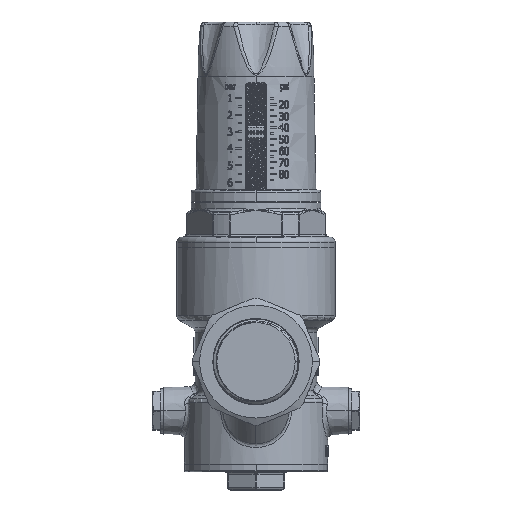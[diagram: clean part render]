
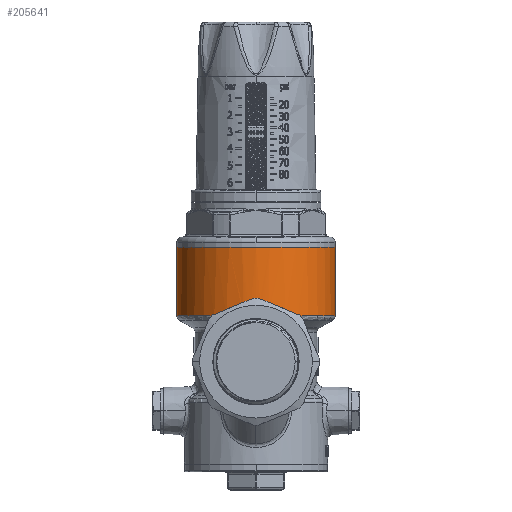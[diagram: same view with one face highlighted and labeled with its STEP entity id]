
A CAD part, left-side view. The second image highlights one B-rep face of the part: STEP entity #205641.
In plain terms, the highlighted cylindrical face has radius 30.5 mm (diameter 61 mm), a partial arc.
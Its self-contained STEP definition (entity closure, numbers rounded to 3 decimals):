
#6147 = CARTESIAN_POINT ( 'NONE',  ( 0., 0., 30.8 ) ) ;
#6174 = CARTESIAN_POINT ( 'NONE',  ( 0., 30.5, 44.1 ) ) ;
#7640 = EDGE_CURVE ( 'NONE', #106637, #15695, #110502, .T. ) ;
#11219 = CIRCLE ( 'NONE', #231513, 30.5 ) ;
#15695 = VERTEX_POINT ( 'NONE', #174830 ) ;
#20724 = CARTESIAN_POINT ( 'NONE',  ( -29.817, 6.419, 17.727 ) ) ;
#23425 = CARTESIAN_POINT ( 'NONE',  ( -30.042, -5.308, 20.527 ) ) ;
#30674 = CYLINDRICAL_SURFACE ( 'NONE', #145989, 30.5 ) ;
#37039 = CARTESIAN_POINT ( 'NONE',  ( -29.78, 6.59, 17.655 ) ) ;
#39792 = DIRECTION ( 'NONE',  ( 0., 0., -1. ) ) ;
#56253 = CARTESIAN_POINT ( 'NONE',  ( -29.889, 6.073, 17.864 ) ) ;
#56784 = CARTESIAN_POINT ( 'NONE',  ( -30.297, -3.699, 22.751 ) ) ;
#58961 = CARTESIAN_POINT ( 'NONE',  ( -29.889, 6.073, 17.864 ) ) ;
#61675 = ORIENTED_EDGE ( 'NONE', *, *, #95538, .F. ) ;
#66974 = LINE ( 'NONE', #244786, #149901 ) ;
#67503 = CARTESIAN_POINT ( 'NONE',  ( -29.889, 6.073, 17.864 ) ) ;
#71119 = VERTEX_POINT ( 'NONE', #234872 ) ;
#95538 = EDGE_CURVE ( 'NONE', #320979, #71119, #149900, .T. ) ;
#105133 = B_SPLINE_CURVE_WITH_KNOTS ( 'NONE', 3,
 ( #361429, #228001, #23425, #56784, #192443, #328062, #159084, #125763, #261345, #58961 ),
 .UNSPECIFIED., .F., .F.,
 ( 4, 1, 1, 1, 1, 1, 1, 4 ),
 ( 0., 0.143, 0.286, 0.429, 0.571, 0.714, 0.857, 1. ),
 .UNSPECIFIED. ) ;
#106637 = VERTEX_POINT ( 'NONE', #261672 ) ;
#107820 = LINE ( 'NONE', #278969, #391310 ) ;
#108765 = DIRECTION ( 'NONE',  ( 0., -1., 0. ) ) ;
#110502 = CIRCLE ( 'NONE', #401476, 30.5 ) ;
#125763 = CARTESIAN_POINT ( 'NONE',  ( -30.042, 5.309, 20.527 ) ) ;
#141513 = CARTESIAN_POINT ( 'NONE',  ( 0., 0., 17.655 ) ) ;
#144038 = DIRECTION ( 'NONE',  ( 0., -1., 0. ) ) ;
#145989 = AXIS2_PLACEMENT_3D ( 'NONE', #6147, #212912, #144038 ) ;
#147647 = EDGE_LOOP ( 'NONE', ( #393329, #61675, #353519, #426034, #329207, #294878, #269168, #332322 ) ) ;
#149900 = CIRCLE ( 'NONE', #299022, 30.5 ) ;
#149901 = VECTOR ( 'NONE', #373832, 1000. ) ;
#150401 = VERTEX_POINT ( 'NONE', #6174 ) ;
#159084 = CARTESIAN_POINT ( 'NONE',  ( -30.297, 3.697, 22.751 ) ) ;
#169015 = CARTESIAN_POINT ( 'NONE',  ( -29.854, -6.247, 17.797 ) ) ;
#171154 = B_SPLINE_CURVE_WITH_KNOTS ( 'NONE', 3,
 ( #406975, #340211, #169015, #242359 ),
 .UNSPECIFIED., .F., .F.,
 ( 4, 4 ),
 ( 1.54, 1.6 ),
 .UNSPECIFIED. ) ;
#173545 = CARTESIAN_POINT ( 'NONE',  ( -29.889, -6.073, 17.864 ) ) ;
#174830 = CARTESIAN_POINT ( 'NONE',  ( -29.78, -6.59, 17.655 ) ) ;
#175621 = VERTEX_POINT ( 'NONE', #67503 ) ;
#180575 = EDGE_CURVE ( 'NONE', #175621, #320979, #203166, .T. ) ;
#183163 = DIRECTION ( 'NONE',  ( 0., 0., -1. ) ) ;
#192443 = CARTESIAN_POINT ( 'NONE',  ( -30.508, -1.346, 24.1 ) ) ;
#203166 = B_SPLINE_CURVE_WITH_KNOTS ( 'NONE', 3,
 ( #56253, #360922, #20724, #389957 ),
 .UNSPECIFIED., .F., .F.,
 ( 4, 4 ),
 ( -1.6, -1.54 ),
 .UNSPECIFIED. ) ;
#203442 = DIRECTION ( 'NONE',  ( 0., 0., 1. ) ) ;
#205641 = ADVANCED_FACE ( 'NONE', ( #228716 ), #30674, .T. ) ;
#208759 = CARTESIAN_POINT ( 'NONE',  ( 0., 0., 44.1 ) ) ;
#212123 = EDGE_CURVE ( 'NONE', #15695, #214716, #171154, .T. ) ;
#212912 = DIRECTION ( 'NONE',  ( 0., 0., 1. ) ) ;
#214716 = VERTEX_POINT ( 'NONE', #173545 ) ;
#223319 = EDGE_CURVE ( 'NONE', #274515, #150401, #11219, .T. ) ;
#228001 = CARTESIAN_POINT ( 'NONE',  ( -29.927, -5.888, 18.767 ) ) ;
#228716 = FACE_OUTER_BOUND ( 'NONE', #147647, .T. ) ;
#231513 = AXIS2_PLACEMENT_3D ( 'NONE', #208759, #39792, #108765 ) ;
#234872 = CARTESIAN_POINT ( 'NONE',  ( 0., 30.5, 17.655 ) ) ;
#242359 = CARTESIAN_POINT ( 'NONE',  ( -29.889, -6.073, 17.864 ) ) ;
#244786 = CARTESIAN_POINT ( 'NONE',  ( 0., 30.5, 30.8 ) ) ;
#261345 = CARTESIAN_POINT ( 'NONE',  ( -29.927, 5.888, 18.767 ) ) ;
#261672 = CARTESIAN_POINT ( 'NONE',  ( 0., -30.5, 17.655 ) ) ;
#269168 = ORIENTED_EDGE ( 'NONE', *, *, #304693, .T. ) ;
#272776 = DIRECTION ( 'NONE',  ( -0.043, 0.999, 0. ) ) ;
#274515 = VERTEX_POINT ( 'NONE', #328795 ) ;
#277146 = DIRECTION ( 'NONE',  ( 0., 0., -1. ) ) ;
#278969 = CARTESIAN_POINT ( 'NONE',  ( 0., -30.5, 30.8 ) ) ;
#294878 = ORIENTED_EDGE ( 'NONE', *, *, #7640, .F. ) ;
#299022 = AXIS2_PLACEMENT_3D ( 'NONE', #141513, #277146, #272776 ) ;
#304693 = EDGE_CURVE ( 'NONE', #106637, #274515, #107820, .T. ) ;
#311329 = EDGE_CURVE ( 'NONE', #214716, #175621, #105133, .T. ) ;
#316610 = DIRECTION ( 'NONE',  ( -0.043, -0.999, 0. ) ) ;
#320979 = VERTEX_POINT ( 'NONE', #37039 ) ;
#328062 = CARTESIAN_POINT ( 'NONE',  ( -30.509, 1.348, 24.102 ) ) ;
#328795 = CARTESIAN_POINT ( 'NONE',  ( 0., -30.5, 44.1 ) ) ;
#329207 = ORIENTED_EDGE ( 'NONE', *, *, #212123, .F. ) ;
#332322 = ORIENTED_EDGE ( 'NONE', *, *, #223319, .T. ) ;
#340211 = CARTESIAN_POINT ( 'NONE',  ( -29.817, -6.419, 17.727 ) ) ;
#353519 = ORIENTED_EDGE ( 'NONE', *, *, #180575, .F. ) ;
#360922 = CARTESIAN_POINT ( 'NONE',  ( -29.854, 6.247, 17.797 ) ) ;
#361429 = CARTESIAN_POINT ( 'NONE',  ( -29.889, -6.073, 17.864 ) ) ;
#373832 = DIRECTION ( 'NONE',  ( 0., 0., 1. ) ) ;
#389957 = CARTESIAN_POINT ( 'NONE',  ( -29.78, 6.59, 17.655 ) ) ;
#391310 = VECTOR ( 'NONE', #203442, 1000. ) ;
#392044 = CARTESIAN_POINT ( 'NONE',  ( 0., 0., 17.655 ) ) ;
#393329 = ORIENTED_EDGE ( 'NONE', *, *, #427566, .F. ) ;
#401476 = AXIS2_PLACEMENT_3D ( 'NONE', #392044, #183163, #316610 ) ;
#406975 = CARTESIAN_POINT ( 'NONE',  ( -29.78, -6.59, 17.655 ) ) ;
#426034 = ORIENTED_EDGE ( 'NONE', *, *, #311329, .F. ) ;
#427566 = EDGE_CURVE ( 'NONE', #71119, #150401, #66974, .T. ) ;
